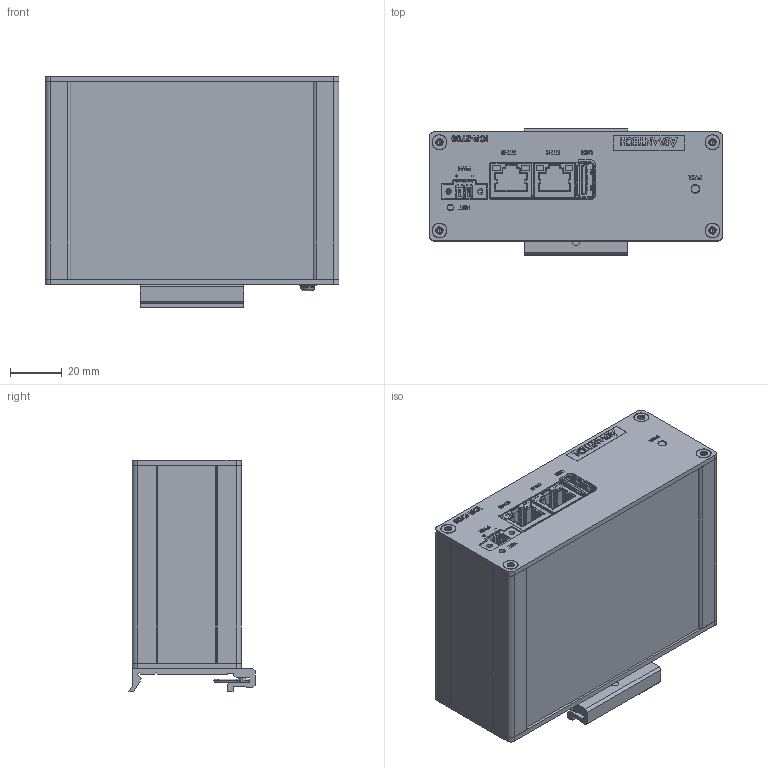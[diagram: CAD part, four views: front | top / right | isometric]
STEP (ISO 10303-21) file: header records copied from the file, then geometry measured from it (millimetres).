
FILE_DESCRIPTION (( 'STEP AP203' ), '1' );
FILE_NAME ('VMC-2021-25-1_Box ICR-2700 - metal.STEP', '2021-10-18T13:48:06', ( '' ), ( '' ), 'SwSTEP 2.0', 'SolidWorks 2021', '' );
FILE_SCHEMA (( 'CONFIG_CONTROL_DESIGN' ));
Length unit declared in the file: millimetre
Products named in the file (12): BB-SBD40; hex socket head screws_iso_uprava_ISO 14586 - ST2.9 x 13-R-N; VMC-2021-25-1-01_ICR-2700 - front part; VMC-2017-06-1_CKK2 box - støíbrný; kolik_BB-SBD40; VMC-2021-25-1_Box ICR-2700 - metal; B-ICR2701-ETH-1.a_3D-2021-04-28_part; Profil_BB-SBD40; countersunk flat head cross recess screw_iso_ISO 7046-1 - M2.5 x 5 - Z - 5N; Pero_BB-SBD40; VMC-2021-09-1-02_ICR-2731 - rear part; Zemnící šroub___
Assembly tree (21 placements, depth 3):
  VMC-2021-25-1_Box ICR-2700 - metal
    VMC-2021-25-1-01_ICR-2700 - front part
    VMC-2021-09-1-02_ICR-2731 - rear part
    VMC-2017-06-1_CKK2 box - støíbrný
    BB-SBD40
      Profil_BB-SBD40
      kolik_BB-SBD40
      Pero_BB-SBD40
    B-ICR2701-ETH-1.a_3D-2021-04-28_part
    countersunk flat head cross recess screw_iso_ISO 7046-1 - M2.5 x 5 - Z - 5N  x4
    hex socket head screws_iso_uprava_ISO 14586 - ST2.9 x 13-R-N  x8
    Zemnící šroub___
Bounding box: 113.2 x 48.57 x 89.4 mm (x, y, z)
Volume: 69354.6 mm3; surface area: 109017 mm2
Topology: 20 solids, 858 shells, 5395 faces, 17761 edges, 13118 vertices
Faces by surface type: plane 4252, cylinder 731, bspline 203, cone 136, torus 66, sphere 7
Entity records: 193412 total; most frequent: CARTESIAN_POINT 48541, DIRECTION 27908, ORIENTED_EDGE 25418, EDGE_CURVE 17024, VECTOR 14484, LINE 14484, VERTEX_POINT 12725, AXIS2_PLACEMENT_3D 6712
